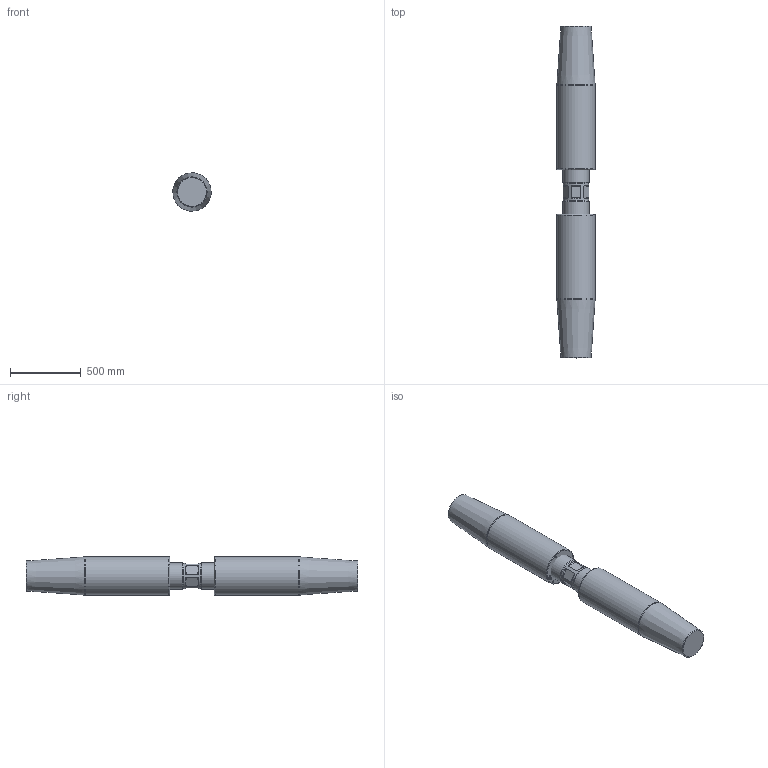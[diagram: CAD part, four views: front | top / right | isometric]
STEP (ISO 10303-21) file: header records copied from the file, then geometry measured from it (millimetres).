
FILE_DESCRIPTION(/* description */ (''),/* implementation_level */ '2;1');
FILE_NAME(/* name */ 'D:\Clienti\Redaelli (inventor)\CYA\STEP\Arrangement\CYA092 52 061 2.stp',/* time_stamp */ '2021-05-09T10:30:14+02:00',/* author */ ('fabri'),/* organization */ (''),/* preprocessor_version */ 'ST-DEVELOPER v16.13',/* originating_system */ 'Autodesk Inventor 2018',/* authorisation */ '');
FILE_SCHEMA (('AUTOMOTIVE_DESIGN { 1 0 10303 214 3 1 1 }'));
Length unit declared in the file: millimetre
Products named in the file (4): CYA012-54-062-0; TBF012-12-012-1; TBF012-13-012-0; TBF012-13-012-0_1
Assembly tree (3 placements, depth 2):
  CYA012-54-062-0
    TBF012-12-012-1
    TBF012-13-012-0
    TBF012-13-012-0_1
Bounding box: 269.82 x 2340 x 269.82 mm (x, y, z)
Volume: 134333400.4 mm3; surface area: 2500205.6 mm2
Topology: 3 solids, 3 shells, 514 faces, 1380 edges, 918 vertices
Faces by surface type: bspline 282, plane 189, cylinder 25, cone 14, torus 4
Full cylindrical faces by diameter (mm): 13.835 x6, 17.294 x2, 179 x1, 185 x2, 270 x2
Entity records: 17752 total; most frequent: CARTESIAN_POINT 6876, ORIENTED_EDGE 2682, EDGE_CURVE 1341, DIRECTION 1273, VERTEX_POINT 910, LINE 715, VECTOR 715, EDGE_LOOP 591
